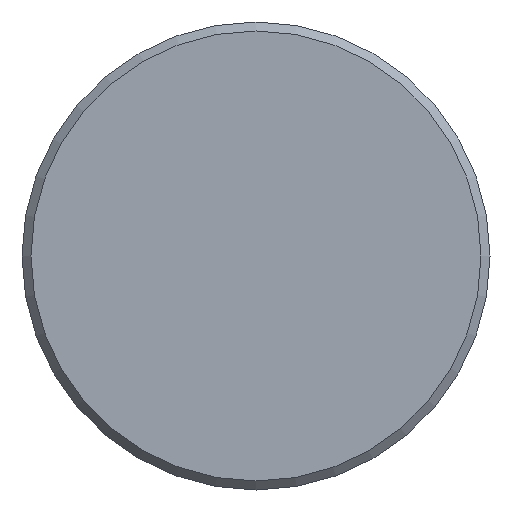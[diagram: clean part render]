
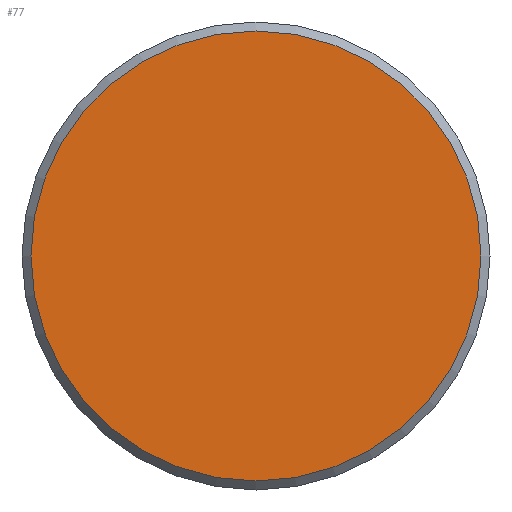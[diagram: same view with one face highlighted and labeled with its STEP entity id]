
A CAD part, front view. The second image highlights one B-rep face of the part: STEP entity #77.
In plain terms, the highlighted planar face has unit normal (0, -1, 0).
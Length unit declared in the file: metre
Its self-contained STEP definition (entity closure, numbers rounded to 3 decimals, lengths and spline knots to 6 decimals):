
#77 = ADVANCED_FACE( '', ( #92 ), #93, .T. );
#92 = FACE_OUTER_BOUND( '', #129, .T. );
#93 = PLANE( '', #130 );
#129 = EDGE_LOOP( '', ( #166 ) );
#130 = AXIS2_PLACEMENT_3D( '', #167, #168, #169 );
#166 = ORIENTED_EDGE( '', *, *, #229, .T. );
#167 = CARTESIAN_POINT( '', ( 0., 0., 0. ) );
#168 = DIRECTION( '', ( 0., -1., 0. ) );
#169 = DIRECTION( '', ( 0., 0., -1. ) );
#229 = EDGE_CURVE( '', #241, #241, #242, .T. );
#241 = VERTEX_POINT( '', #265 );
#242 = CIRCLE( '', #266, 0.0125 );
#265 = CARTESIAN_POINT( '', ( 0., 0., -0.0125 ) );
#266 = AXIS2_PLACEMENT_3D( '', #289, #290, #291 );
#289 = CARTESIAN_POINT( '', ( 0., 0., 0. ) );
#290 = DIRECTION( '', ( 0., -1., 0. ) );
#291 = DIRECTION( '', ( 0., 0., -1. ) );
